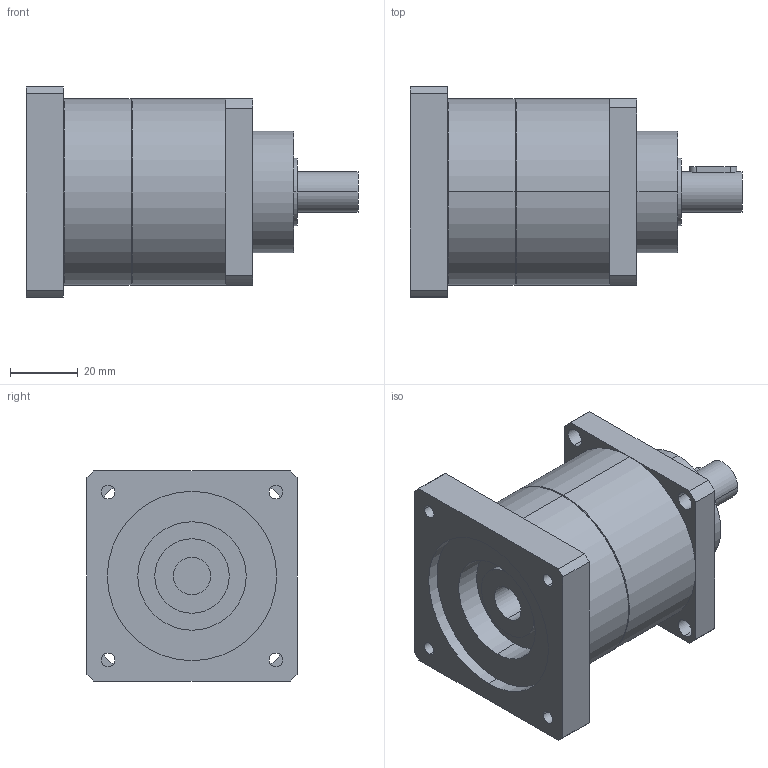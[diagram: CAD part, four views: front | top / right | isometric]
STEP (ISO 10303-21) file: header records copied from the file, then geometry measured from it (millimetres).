
FILE_DESCRIPTION(('CoCreate Modeling STEP Export'),'2;1');
FILE_NAME('GPT55_ig-3-4-5-7-10_12_B5A_11_P31.stp','2014-08-25T14:31:41',(''),(''),'CoCreate Modeling STEP processor for AP214 (Solid Model)','CoCreate Modeling 16.00C 25-Feb-2009 (C) Parametric Technology GmbH','');
FILE_SCHEMA(('AUTOMOTIVE_DESIGN { 1 0 10303 214 1 1 1 1 }'));
Length unit declared in the file: millimetre
Products named in the file (2): GPT55_ig-3-4-5-7-10_12_B5A_11_P31
Assembly tree (1 placements, depth 2):
  GPT55_ig-3-4-5-7-10_12_B5A_11_P31
    GPT55_ig-3-4-5-7-10_12_B5A_11_P31
Bounding box: 98 x 62 x 62 mm (x, y, z)
Volume: 179572.5 mm3; surface area: 27171 mm2
Topology: 1 solids, 1 shells, 77 faces, 204 edges, 139 vertices
Faces by surface type: cylinder 46, plane 27, cone 4
Entity records: 2515 total; most frequent: CARTESIAN_POINT 710, ORIENTED_EDGE 408, DIRECTION 318, EDGE_CURVE 204, VERTEX_POINT 139, AXIS2_PLACEMENT_3D 117, EDGE_LOOP 103, VECTOR 84
